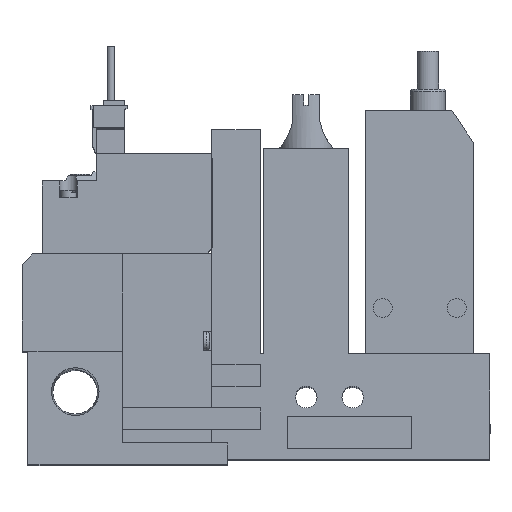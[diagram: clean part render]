
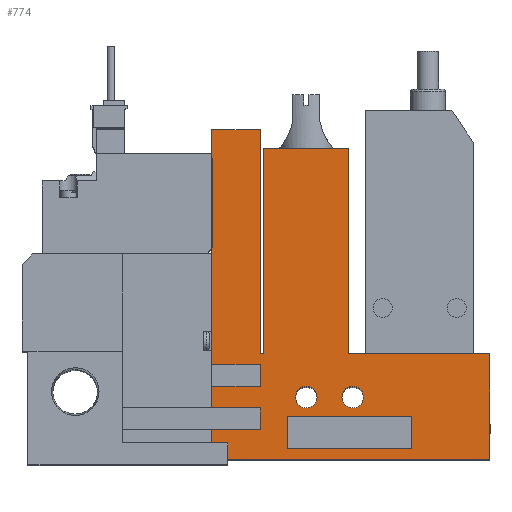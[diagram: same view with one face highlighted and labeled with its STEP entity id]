
A CAD part, top view. The second image highlights one B-rep face of the part: STEP entity #774.
In plain terms, the highlighted planar face has unit normal (0, 0, 1).
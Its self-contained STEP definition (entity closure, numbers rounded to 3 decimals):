
#774=ADVANCED_FACE('',(#1543,#1544,#1545,#1546),#1547,.T.);
#1543=FACE_OUTER_BOUND('',#2627,.T.);
#1544=FACE_BOUND('',#2628,.T.);
#1545=FACE_BOUND('',#2629,.T.);
#1546=FACE_BOUND('',#2630,.T.);
#1547=PLANE('',#2631);
#2627=EDGE_LOOP('',(#5318,#5319,#5320,#5321,#5322,#5323,#5324,#5325,#5326,#5327,#5328,#5329,#5330,#5331,#5332,#5333,#5334,#5335));
#2628=EDGE_LOOP('',(#5336,#5337,#5338,#5339));
#2629=EDGE_LOOP('',(#5340));
#2630=EDGE_LOOP('',(#5341));
#2631=AXIS2_PLACEMENT_3D('',#5342,#5343,#5344);
#5318=ORIENTED_EDGE('',*,*,#7432,.T.);
#5319=ORIENTED_EDGE('',*,*,#7431,.T.);
#5320=ORIENTED_EDGE('',*,*,#7409,.T.);
#5321=ORIENTED_EDGE('',*,*,#7433,.T.);
#5322=ORIENTED_EDGE('',*,*,#7434,.T.);
#5323=ORIENTED_EDGE('',*,*,#7435,.T.);
#5324=ORIENTED_EDGE('',*,*,#7436,.T.);
#5325=ORIENTED_EDGE('',*,*,#7437,.T.);
#5326=ORIENTED_EDGE('',*,*,#7438,.T.);
#5327=ORIENTED_EDGE('',*,*,#7439,.T.);
#5328=ORIENTED_EDGE('',*,*,#7440,.T.);
#5329=ORIENTED_EDGE('',*,*,#7441,.T.);
#5330=ORIENTED_EDGE('',*,*,#7400,.T.);
#5331=ORIENTED_EDGE('',*,*,#7442,.T.);
#5332=ORIENTED_EDGE('',*,*,#7443,.T.);
#5333=ORIENTED_EDGE('',*,*,#7444,.T.);
#5334=ORIENTED_EDGE('',*,*,#7383,.T.);
#5335=ORIENTED_EDGE('',*,*,#7445,.T.);
#5336=ORIENTED_EDGE('',*,*,#7446,.T.);
#5337=ORIENTED_EDGE('',*,*,#7447,.T.);
#5338=ORIENTED_EDGE('',*,*,#7448,.T.);
#5339=ORIENTED_EDGE('',*,*,#7449,.T.);
#5340=ORIENTED_EDGE('',*,*,#7450,.T.);
#5341=ORIENTED_EDGE('',*,*,#7427,.T.);
#5342=CARTESIAN_POINT('',(0.0,0.0,10.0));
#5343=DIRECTION('',(0.0,0.0,1.0));
#5344=DIRECTION('',(1.0,0.0,0.0));
#7383=EDGE_CURVE('',#8944,#8942,#8945,.T.);
#7400=EDGE_CURVE('',#8977,#8975,#8978,.T.);
#7409=EDGE_CURVE('',#8988,#8993,#8995,.T.);
#7427=EDGE_CURVE('',#9029,#9029,#9030,.T.);
#7431=EDGE_CURVE('',#9031,#8988,#9037,.T.);
#7432=EDGE_CURVE('',#9038,#9031,#9039,.T.);
#7433=EDGE_CURVE('',#8993,#9040,#9041,.T.);
#7434=EDGE_CURVE('',#9040,#9042,#9043,.T.);
#7435=EDGE_CURVE('',#9042,#9044,#9045,.T.);
#7436=EDGE_CURVE('',#9044,#9046,#9047,.T.);
#7437=EDGE_CURVE('',#9046,#9048,#9049,.T.);
#7438=EDGE_CURVE('',#9048,#9050,#9051,.T.);
#7439=EDGE_CURVE('',#9050,#9052,#9053,.T.);
#7440=EDGE_CURVE('',#9052,#9054,#9055,.T.);
#7441=EDGE_CURVE('',#9054,#8977,#9056,.T.);
#7442=EDGE_CURVE('',#8975,#9057,#9058,.T.);
#7443=EDGE_CURVE('',#9057,#9059,#9060,.T.);
#7444=EDGE_CURVE('',#9059,#8944,#9061,.T.);
#7445=EDGE_CURVE('',#8942,#9038,#9062,.T.);
#7446=EDGE_CURVE('',#9063,#9064,#9065,.T.);
#7447=EDGE_CURVE('',#9064,#9066,#9067,.T.);
#7448=EDGE_CURVE('',#9066,#9068,#9069,.T.);
#7449=EDGE_CURVE('',#9068,#9063,#9070,.T.);
#7450=EDGE_CURVE('',#9071,#9071,#9072,.T.);
#8942=VERTEX_POINT('',#11448);
#8944=VERTEX_POINT('',#11451);
#8945=LINE('',#11452,#11453);
#8975=VERTEX_POINT('',#11496);
#8977=VERTEX_POINT('',#11499);
#8978=LINE('',#11500,#11501);
#8988=VERTEX_POINT('',#11516);
#8993=VERTEX_POINT('',#11523);
#8995=LINE('',#11526,#11527);
#9029=VERTEX_POINT('',#11577);
#9030=CIRCLE('',#11578,2.0);
#9031=VERTEX_POINT('',#11579);
#9037=LINE('',#11588,#11589);
#9038=VERTEX_POINT('',#11590);
#9039=LINE('',#11591,#11592);
#9040=VERTEX_POINT('',#11593);
#9041=LINE('',#11594,#11595);
#9042=VERTEX_POINT('',#11596);
#9043=LINE('',#11597,#11598);
#9044=VERTEX_POINT('',#11599);
#9045=LINE('',#11600,#11601);
#9046=VERTEX_POINT('',#11602);
#9047=LINE('',#11603,#11604);
#9048=VERTEX_POINT('',#11605);
#9049=LINE('',#11606,#11607);
#9050=VERTEX_POINT('',#11608);
#9051=LINE('',#11609,#11610);
#9052=VERTEX_POINT('',#11611);
#9053=LINE('',#11612,#11613);
#9054=VERTEX_POINT('',#11614);
#9055=LINE('',#11615,#11616);
#9056=LINE('',#11617,#11618);
#9057=VERTEX_POINT('',#11619);
#9058=LINE('',#11620,#11621);
#9059=VERTEX_POINT('',#11622);
#9060=LINE('',#11623,#11624);
#9061=LINE('',#11625,#11626);
#9062=LINE('',#11627,#11628);
#9063=VERTEX_POINT('',#11629);
#9064=VERTEX_POINT('',#11630);
#9065=LINE('',#11631,#11632);
#9066=VERTEX_POINT('',#11633);
#9067=LINE('',#11634,#11635);
#9068=VERTEX_POINT('',#11636);
#9069=LINE('',#11637,#11638);
#9070=LINE('',#11639,#11640);
#9071=VERTEX_POINT('',#11641);
#9072=CIRCLE('',#11642,2.0);
#11448=CARTESIAN_POINT('',(44.1,61.0,10.0));
#11451=CARTESIAN_POINT('',(44.1,19.5,10.0));
#11452=CARTESIAN_POINT('',(44.1,19.5,10.0));
#11453=VECTOR('',#13576,1.0);
#11496=CARTESIAN_POINT('',(60.45,57.5,10.0));
#11499=CARTESIAN_POINT('',(60.45,19.5,10.0));
#11500=CARTESIAN_POINT('',(60.45,19.5,10.0));
#11501=VECTOR('',#13597,1.0);
#11516=CARTESIAN_POINT('',(44.1,17.5,10.0));
#11523=CARTESIAN_POINT('',(44.1,13.5,10.0));
#11526=CARTESIAN_POINT('',(44.1,0.0,10.0));
#11527=VECTOR('',#13606,1.0);
#11577=CARTESIAN_POINT('',(63.2,11.5,10.0));
#11578=AXIS2_PLACEMENT_3D('',#13626,#13627,#13628);
#11579=CARTESIAN_POINT('',(35.1,17.5,10.0));
#11588=CARTESIAN_POINT('',(0.0,17.5,10.0));
#11589=VECTOR('',#13632,1.0);
#11590=CARTESIAN_POINT('',(35.1,61.0,10.0));
#11591=CARTESIAN_POINT('',(35.1,61.0,10.0));
#11592=VECTOR('',#13633,1.0);
#11593=CARTESIAN_POINT('',(35.1,13.5,10.0));
#11594=CARTESIAN_POINT('',(0.0,13.5,10.0));
#11595=VECTOR('',#13634,1.0);
#11596=CARTESIAN_POINT('',(35.1,9.5,10.0));
#11597=CARTESIAN_POINT('',(35.1,0.0,10.0));
#11598=VECTOR('',#13635,1.0);
#11599=CARTESIAN_POINT('',(44.1,9.5,10.0));
#11600=CARTESIAN_POINT('',(0.0,9.5,10.0));
#11601=VECTOR('',#13636,1.0);
#11602=CARTESIAN_POINT('',(44.1,5.5,10.0));
#11603=CARTESIAN_POINT('',(44.1,0.0,10.0));
#11604=VECTOR('',#13637,1.0);
#11605=CARTESIAN_POINT('',(35.1,5.5,10.0));
#11606=CARTESIAN_POINT('',(0.0,5.5,10.0));
#11607=VECTOR('',#13638,1.0);
#11608=CARTESIAN_POINT('',(35.1,0.0,10.0));
#11609=CARTESIAN_POINT('',(35.1,0.0,10.0));
#11610=VECTOR('',#13639,1.0);
#11611=CARTESIAN_POINT('',(86.6,0.0,10.0));
#11612=CARTESIAN_POINT('',(18.6,0.0,10.0));
#11613=VECTOR('',#13640,1.0);
#11614=CARTESIAN_POINT('',(86.6,19.5,10.0));
#11615=CARTESIAN_POINT('',(86.6,0.0,10.0));
#11616=VECTOR('',#13641,1.0);
#11617=CARTESIAN_POINT('',(86.6,19.5,10.0));
#11618=VECTOR('',#13642,1.0);
#11619=CARTESIAN_POINT('',(44.75,57.5,10.0));
#11620=CARTESIAN_POINT('',(60.45,57.5,10.0));
#11621=VECTOR('',#13643,1.0);
#11622=CARTESIAN_POINT('',(44.75,19.5,10.0));
#11623=CARTESIAN_POINT('',(44.75,57.5,10.0));
#11624=VECTOR('',#13644,1.0);
#11625=CARTESIAN_POINT('',(44.75,19.5,10.0));
#11626=VECTOR('',#13645,1.0);
#11627=CARTESIAN_POINT('',(44.1,61.0,10.0));
#11628=VECTOR('',#13646,1.0);
#11629=CARTESIAN_POINT('',(49.1,2.0,10.0));
#11630=CARTESIAN_POINT('',(49.1,8.0,10.0));
#11631=CARTESIAN_POINT('',(49.1,0.0,10.0));
#11632=VECTOR('',#13647,1.0);
#11633=CARTESIAN_POINT('',(72.1,8.0,10.0));
#11634=CARTESIAN_POINT('',(0.0,8.0,10.0));
#11635=VECTOR('',#13648,1.0);
#11636=CARTESIAN_POINT('',(72.1,2.0,10.0));
#11637=CARTESIAN_POINT('',(72.1,0.0,10.0));
#11638=VECTOR('',#13649,1.0);
#11639=CARTESIAN_POINT('',(0.0,2.0,10.0));
#11640=VECTOR('',#13650,1.0);
#11641=CARTESIAN_POINT('',(54.6,11.5,10.0));
#11642=AXIS2_PLACEMENT_3D('',#13651,#13652,#13653);
#13576=DIRECTION('',(0.0,1.0,0.0));
#13597=DIRECTION('',(0.0,1.0,0.0));
#13606=DIRECTION('',(0.0,-1.0,0.0));
#13626=CARTESIAN_POINT('',(61.2,11.5,10.0));
#13627=DIRECTION('',(0.0,0.0,-1.0));
#13628=DIRECTION('',(1.0,0.0,0.0));
#13632=DIRECTION('',(1.0,0.0,0.0));
#13633=DIRECTION('',(0.0,-1.0,0.0));
#13634=DIRECTION('',(-1.0,0.0,0.0));
#13635=DIRECTION('',(0.0,-1.0,0.0));
#13636=DIRECTION('',(1.0,0.0,0.0));
#13637=DIRECTION('',(0.0,-1.0,0.0));
#13638=DIRECTION('',(-1.0,0.0,0.0));
#13639=DIRECTION('',(0.0,-1.0,0.0));
#13640=DIRECTION('',(1.0,0.0,0.0));
#13641=DIRECTION('',(0.0,1.0,0.0));
#13642=DIRECTION('',(-1.0,0.0,0.0));
#13643=DIRECTION('',(-1.0,0.0,0.0));
#13644=DIRECTION('',(0.0,-1.0,0.0));
#13645=DIRECTION('',(-1.0,0.0,0.0));
#13646=DIRECTION('',(-1.0,0.0,0.0));
#13647=DIRECTION('',(0.0,1.0,0.0));
#13648=DIRECTION('',(1.0,0.0,0.0));
#13649=DIRECTION('',(0.0,-1.0,0.0));
#13650=DIRECTION('',(-1.0,0.0,0.0));
#13651=CARTESIAN_POINT('',(52.6,11.5,10.0));
#13652=DIRECTION('',(0.0,0.0,-1.0));
#13653=DIRECTION('',(1.0,0.0,0.0));
